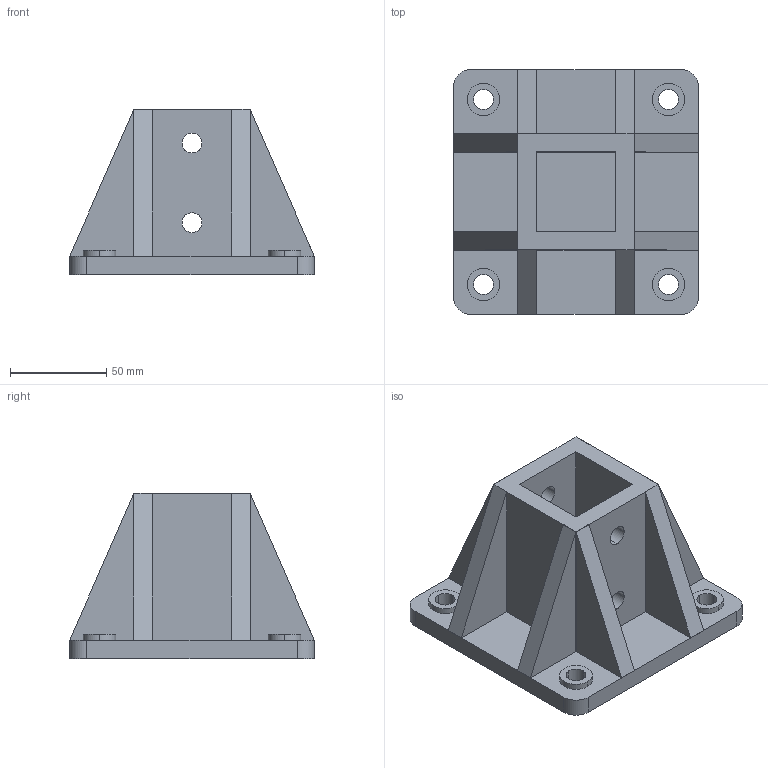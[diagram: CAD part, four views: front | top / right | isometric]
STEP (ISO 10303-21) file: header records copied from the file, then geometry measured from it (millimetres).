
FILE_DESCRIPTION(('TurboCAD Mac Pro'),'Build 980');
FILE_NAME('F20PU-5853.stp',' ',(''),(''),'ACIS Interop','IMSI','TurboCAD Mac Pro BY IMSI, INCORPORATED');
FILE_SCHEMA(('automotive_design'));
Length unit declared in the file: inch
Products named in the file (3): 1; 2; 3
Bounding box: 127 x 127 x 85.72 mm (x, y, z)
Volume: 392656.8 mm3; surface area: 95027.2 mm2
Topology: 3 solids, 3 shells, 100 faces, 259 edges, 171 vertices
Faces by surface type: bspline 52, plane 48
Entity records: 4197 total; most frequent: CARTESIAN_POINT 1209, ORIENTED_EDGE 518, EDGE_CURVE 259, DIRECTION 257, VERTEX_POINT 171, LINE 155, VECTOR 155, EDGE_LOOP 122
